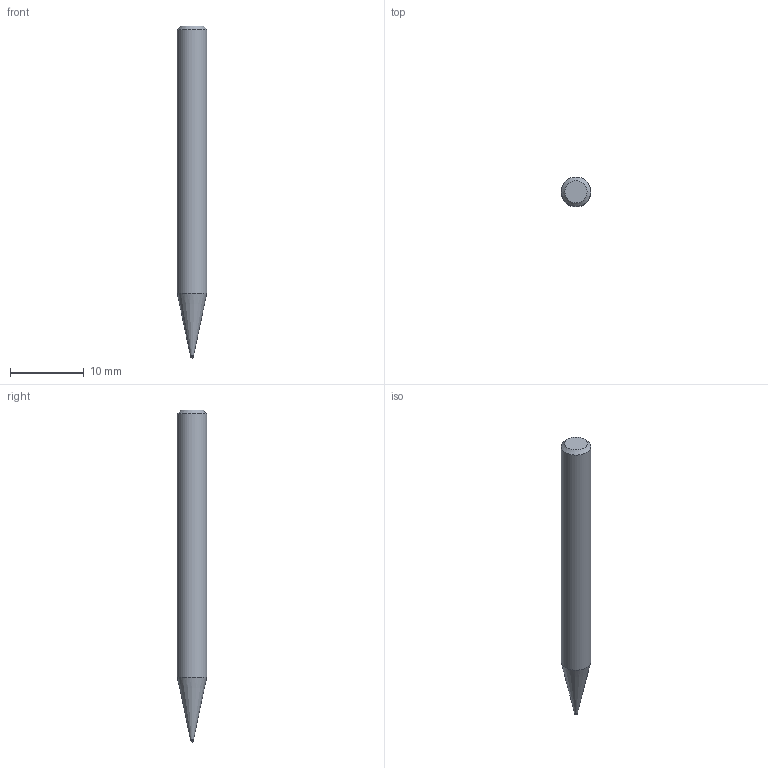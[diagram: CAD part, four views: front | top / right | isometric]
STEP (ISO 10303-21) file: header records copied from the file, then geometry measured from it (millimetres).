
FILE_DESCRIPTION((''),'2;1');
FILE_NAME('C:\Users\nsx150\AppData\Local\Temp\Mastercam 2021\ARV7HD45SN\TEMP.step','2023-06-13T16:32:41',(''),(''),'STEP Write','Mastercam 2021 ... CNC Software, Inc.','');
FILE_SCHEMA(('AUTOMOTIVE_DESIGN'));
Length unit declared in the file: millimetre
Products named in the file (1): None
Bounding box: 4 x 4 x 45 mm (x, y, z)
Volume: 493.3 mm3; surface area: 524.3 mm2
Topology: 2 solids, 2 shells, 8 faces, 12 edges, 7 vertices
Faces by surface type: plane 3, cylinder 2, cone 2, sphere 1
Full cylindrical faces by diameter (mm): 0.4 x1, 4 x1
Entity records: 190 total; most frequent: DIRECTION 32, CARTESIAN_POINT 22, AXIS2_PLACEMENT_3D 16, ORIENTED_EDGE 12, EDGE_LOOP 12, STYLED_ITEM 11, ADVANCED_FACE 8, VERTEX_POINT 6
